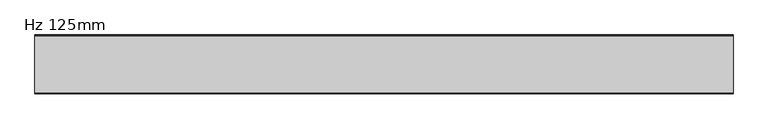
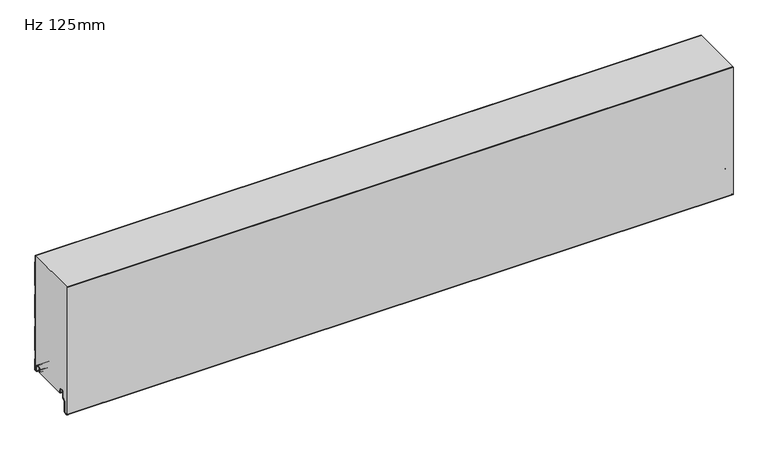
"""IFC4 building model written with IfcOpenShell, lengths in millimetres: plate geometry, KIP-MEX-KSS-1067-R19-CP-Hz-OP_SL : Hz 125mm."""

from ifc_helpers import new_model, si_unit, point, frame, frame_2d, origin, place, context, project, spatial, polyline, circle_curve, trimmed, segment, composite_curve, outline, extrude, source, transform, mapped, element, save
from ifc_brep_helpers import plane_surface, cylinder_surface, revolved_surface, advanced_brep


def hz_125mm_eea721eb(model_context):
    return source(origin(), model_context, "Body", "SolidModel", [
        advanced_brep(
        [(-740.0, -17.0015159, 2.0313088), (-740.0, -18.0015191, 1.0313116), (-740.0, -19.0015105, 2.0313088), (-740.0, -19.0015105, 6.0315125), (-740.0, -18.0015159, 6.0315125), (-740.0, -18.0015159, 8.7237223), (-740.0, -14.7015202, 12.023718), (-740.0, -10.301529, 12.023718), (-740.0, -7.0015335, 8.7237225), (-740.0, -7.0015335, -1.6962564), (-740.0, -5.2315393, -3.4662506), (-740.0, -0.9999916, -3.4662506), (-740.0, -0.9999916, 21.034026), (-740.0, -2.2002307, 22.4196686), (-740.0, -2.2002307, 41.7948349), (-740.0, -1.0, 43.1804679), (-740.0, -1.0, 97.2338833), (-740.0, -2.2002307, 98.6195162), (-740.0, -2.2002307, 117.9946825), (-740.0, -1.0, 119.3803155), (-740.0, -1.0, 173.4337309), (-740.0, -2.2002307, 174.8193638), (-740.0, -2.2002307, 194.1945301), (-740.0, -1.0, 195.5801631), (-740.0, -1.0, 249.6335785), (-740.0, -2.2002307, 251.0192114), (-740.0, -2.2002307, 266.0), (-740.0, -1.2002307, 266.0), (-740.0, -1.2002307, 251.3920919), (-740.0, -0.3417885, 250.4010442), (-740.0, 0.0, 249.4844273), (-740.0, 0.0, 195.7293142), (-740.0, -0.3417885, 194.8126973), (-740.0, -1.2002307, 193.8216497), (-740.0, -1.2002307, 175.1922443), (-740.0, -0.3417885, 174.2011966), (-740.0, 0.0, 173.2845797), (-740.0, 0.0, 119.5294666), (-740.0, -0.3417885, 118.6128497), (-740.0, -1.2002307, 117.6218021), (-740.0, -1.2002307, 98.9923967), (-740.0, -0.3417885, 98.001349), (-740.0, 0.0, 97.0847321), (-740.0, 0.0, 43.329619), (-740.0, -0.3417885, 42.4130021), (-740.0, -1.2002307, 41.4219545), (-740.0, -1.2002307, 22.7925491), (-740.0, -0.3417885, 21.8015014), (-740.0, 0.0, 20.8847931), (-740.0, 8.4e-06, -3.0662545), (-740.0, -1.3999878, -4.4662506), (-740.0, -5.2315393, -4.4662506), (-740.0, -8.0015335, -1.6962564), (-740.0, -8.0015335, 8.7237225), (-740.0, -10.301529, 11.023718), (-740.0, -14.7015202, 11.023718), (-740.0, -17.0015159, 8.7237223), (740.0, -17.0015159, 2.0313088), (740.0, -17.0015159, 8.7237223), (740.0, -14.7015202, 11.023718), (740.0, -10.301529, 11.023718), (740.0, -8.0015335, 8.7237225), (740.0, -8.0015335, -1.6962564), (740.0, -5.2315393, -4.4662506), (740.0, -1.3999878, -4.4662506), (740.0, 8.4e-06, -3.0662545), (740.0, 8.4e-06, 20.8848845), (740.0, -0.3417885, 21.8015014), (740.0, -1.2002307, 22.7925491), (740.0, -1.2002307, 41.4219545), (740.0, -0.3417885, 42.4130021), (740.0, 0.0, 43.329619), (740.0, 0.0, 97.0847321), (740.0, -0.3417885, 98.001349), (740.0, -1.2002307, 98.9923967), (740.0, -1.2002307, 117.6218021), (740.0, -0.3417885, 118.6128497), (740.0, 0.0, 119.5294666), (740.0, 0.0, 173.2845797), (740.0, -0.3417885, 174.2011966), (740.0, -1.2002307, 175.1922443), (740.0, -1.2002307, 193.8216497), (740.0, -0.3417885, 194.8126973), (740.0, 0.0, 195.7293142), (740.0, 0.0, 249.4844273), (740.0, -0.3417885, 250.4010442), (740.0, -1.2002307, 251.3920919), (740.0, -1.2002307, 266.0), (740.0, -2.2002307, 266.0), (740.0, -2.2002307, 251.0192114), (740.0, -1.0, 249.6335785), (740.0, -1.0, 195.5801631), (740.0, -2.2002307, 194.1945301), (740.0, -2.2002307, 174.8193638), (740.0, -1.0, 173.4337309), (740.0, -1.0, 119.3803155), (740.0, -2.2002307, 117.9946825), (740.0, -2.2002307, 98.6195162), (740.0, -1.0, 97.2338833), (740.0, -1.0, 43.1804679), (740.0, -2.2002307, 41.7948349), (740.0, -2.2002307, 22.4196686), (740.0, -0.9999916, 21.034026), (740.0, -0.9999916, -3.4662506), (740.0, -5.2315393, -3.4662506), (740.0, -7.0015335, -1.6962564), (740.0, -7.0015335, 8.7237225), (740.0, -10.301529, 12.023718), (740.0, -14.7015202, 12.023718), (740.0, -18.0015159, 8.7237223), (740.0, -18.0015159, 6.0315125), (740.0, -19.0015105, 6.0315125), (740.0, -19.0015105, 2.0313088), (740.0, -18.0015192, 1.0313116)],
        [
            (0, 1, circle_curve(frame((-740.0, -18.0015132, 2.0313088), z_axis=(-1.0, 0.0, 0.0), x_axis=(0.0, 0.0, 1.0)), 0.9999973)),
            (1, 2, circle_curve(frame((-740.0, -18.0015133, 2.0313088), z_axis=(-1.0, 0.0, 0.0), x_axis=(0.0, 0.0, 1.0)), 0.9999972)),
            (2, 3),
            (3, 4),
            (4, 5),
            (5, 6, circle_curve(frame((-740.0, -14.7015202, 8.7237223), z_axis=(-1.0, 0.0, 0.0), x_axis=(0.0, 0.0, 1.0)), 3.2999957)),
            (6, 7),
            (7, 8, circle_curve(frame((-740.0, -10.301529, 8.7237225), z_axis=(-1.0, 0.0, 0.0), x_axis=(0.0, 0.0, 1.0)), 3.2999955)),
            (8, 9),
            (9, 10, circle_curve(frame((-740.0, -5.2315393, -1.6962564), z_axis=(1.0, 0.0, 0.0), x_axis=(0.0, 0.0, 1.0)), 1.7699942)),
            (10, 11),
            (11, 12),
            (12, 13),
            (13, 14),
            (14, 15),
            (15, 16),
            (16, 17),
            (17, 18),
            (18, 19),
            (19, 20),
            (20, 21),
            (21, 22),
            (22, 23),
            (23, 24),
            (24, 25),
            (25, 26),
            (26, 27),
            (27, 28),
            (28, 29),
            (29, 30, circle_curve(frame((-740.0, -1.3999972, 249.4844273), z_axis=(-1.0, 0.0, 0.0), x_axis=(0.0, 0.0, 1.0)), 1.3999972)),
            (30, 31),
            (31, 32, circle_curve(frame((-740.0, -1.3999972, 195.7293142), z_axis=(-1.0, 0.0, 0.0), x_axis=(0.0, 0.0, 1.0)), 1.3999972)),
            (32, 33),
            (33, 34),
            (34, 35),
            (35, 36, circle_curve(frame((-740.0, -1.3999972, 173.2845797), z_axis=(-1.0, 0.0, 0.0), x_axis=(0.0, 0.0, 1.0)), 1.3999972)),
            (36, 37),
            (37, 38, circle_curve(frame((-740.0, -1.3999972, 119.5294666), z_axis=(-1.0, 0.0, 0.0), x_axis=(0.0, 0.0, 1.0)), 1.3999972)),
            (38, 39),
            (39, 40),
            (40, 41),
            (41, 42, circle_curve(frame((-740.0, -1.3999972, 97.0847321), z_axis=(-1.0, 0.0, 0.0), x_axis=(0.0, 0.0, 1.0)), 1.3999972)),
            (42, 43),
            (43, 44, circle_curve(frame((-740.0, -1.3999972, 43.329619), z_axis=(-1.0, 0.0, 0.0), x_axis=(0.0, 0.0, 1.0)), 1.3999972)),
            (44, 45),
            (45, 46),
            (46, 47),
            (47, 48, circle_curve(frame((-740.0, -1.3999972, 20.8848845), z_axis=(-1.0, 0.0, 0.0), x_axis=(0.0, 0.0, 1.0)), 1.3999972)),
            (48, 49),
            (49, 50, circle_curve(frame((-740.0, -1.3999878, -3.0662545), z_axis=(-1.0, 0.0, 0.0), x_axis=(0.0, 0.0, 1.0)), 1.3999962)),
            (50, 51),
            (51, 52, circle_curve(frame((-740.0, -5.2315393, -1.6962564), z_axis=(-1.0, 0.0, 0.0), x_axis=(0.0, 0.0, 1.0)), 2.7699942)),
            (52, 53),
            (53, 54, circle_curve(frame((-740.0, -10.301529, 8.7237225), z_axis=(1.0, 0.0, 0.0), x_axis=(0.0, 0.0, 1.0)), 2.2999955)),
            (54, 55),
            (55, 56, circle_curve(frame((-740.0, -14.7015202, 8.7237223), z_axis=(1.0, 0.0, 0.0), x_axis=(0.0, 0.0, 1.0)), 2.2999957)),
            (56, 0),
            (57, 58),
            (58, 59, circle_curve(frame((740.0, -14.7015202, 8.7237223), z_axis=(-1.0, 0.0, 0.0), x_axis=(0.0, 0.0, 1.0)), 2.2999957)),
            (59, 60),
            (60, 61, circle_curve(frame((740.0, -10.301529, 8.7237225), z_axis=(-1.0, 0.0, 0.0), x_axis=(0.0, 0.0, 1.0)), 2.2999955)),
            (61, 62),
            (62, 63, circle_curve(frame((740.0, -5.2315393, -1.6962564), z_axis=(1.0, 0.0, 0.0), x_axis=(0.0, 0.0, 1.0)), 2.7699942)),
            (63, 64),
            (64, 65, circle_curve(frame((740.0, -1.3999878, -3.0662545), z_axis=(1.0, 0.0, 0.0), x_axis=(0.0, 0.0, 1.0)), 1.3999962)),
            (65, 66),
            (66, 67, circle_curve(frame((740.0, -1.3999972, 20.8848845), z_axis=(1.0, 0.0, 0.0), x_axis=(0.0, 0.0, 1.0)), 1.3999972)),
            (67, 68),
            (68, 69),
            (69, 70),
            (70, 71, circle_curve(frame((740.0, -1.3999972, 43.329619), z_axis=(1.0, 0.0, 0.0), x_axis=(0.0, 0.0, 1.0)), 1.3999972)),
            (71, 72),
            (72, 73, circle_curve(frame((740.0, -1.3999972, 97.0847321), z_axis=(1.0, 0.0, 0.0), x_axis=(0.0, 0.0, 1.0)), 1.3999972)),
            (73, 74),
            (74, 75),
            (75, 76),
            (76, 77, circle_curve(frame((740.0, -1.3999972, 119.5294666), z_axis=(1.0, 0.0, 0.0), x_axis=(0.0, 0.0, 1.0)), 1.3999972)),
            (77, 78),
            (78, 79, circle_curve(frame((740.0, -1.3999972, 173.2845797), z_axis=(1.0, 0.0, 0.0), x_axis=(0.0, 0.0, 1.0)), 1.3999972)),
            (79, 80),
            (80, 81),
            (81, 82),
            (82, 83, circle_curve(frame((740.0, -1.3999972, 195.7293142), z_axis=(1.0, 0.0, 0.0), x_axis=(0.0, 0.0, 1.0)), 1.3999972)),
            (83, 84),
            (84, 85, circle_curve(frame((740.0, -1.3999972, 249.4844273), z_axis=(1.0, 0.0, 0.0), x_axis=(0.0, 0.0, 1.0)), 1.3999972)),
            (85, 86),
            (86, 87),
            (87, 88),
            (88, 89),
            (89, 90),
            (90, 91),
            (91, 92),
            (92, 93),
            (93, 94),
            (94, 95),
            (95, 96),
            (96, 97),
            (97, 98),
            (98, 99),
            (99, 100),
            (100, 101),
            (101, 102),
            (102, 103),
            (103, 104),
            (104, 105, circle_curve(frame((740.0, -5.2315393, -1.6962564), z_axis=(-1.0, 0.0, 0.0), x_axis=(0.0, 0.0, 1.0)), 1.7699942)),
            (105, 106),
            (106, 107, circle_curve(frame((740.0, -10.301529, 8.7237225), z_axis=(1.0, 0.0, 0.0), x_axis=(0.0, 0.0, 1.0)), 3.2999955)),
            (107, 108),
            (108, 109, circle_curve(frame((740.0, -14.7015202, 8.7237223), z_axis=(1.0, 0.0, 0.0), x_axis=(0.0, 0.0, 1.0)), 3.2999957)),
            (109, 110),
            (110, 111),
            (111, 112),
            (112, 113, circle_curve(frame((740.0, -18.0015133, 2.0313088), z_axis=(1.0, 0.0, 0.0), x_axis=(0.0, 0.0, 1.0)), 0.9999972)),
            (113, 57, circle_curve(frame((740.0, -18.0015132, 2.0313088), z_axis=(1.0, 0.0, 0.0), x_axis=(0.0, 0.0, 1.0)), 0.9999973)),
            (56, 58),
            (57, 0),
            (55, 59),
            (54, 60),
            (53, 61),
            (52, 62),
            (51, 63),
            (50, 64),
            (49, 65),
            (48, 66),
            (47, 67),
            (46, 68),
            (45, 69),
            (44, 70),
            (43, 71),
            (42, 72),
            (41, 73),
            (40, 74),
            (39, 75),
            (38, 76),
            (37, 77),
            (36, 78),
            (35, 79),
            (34, 80),
            (33, 81),
            (32, 82),
            (31, 83),
            (30, 84),
            (29, 85),
            (28, 86),
            (27, 87),
            (88, 26),
            (25, 89),
            (24, 90),
            (23, 91),
            (22, 92),
            (21, 93),
            (20, 94),
            (19, 95),
            (18, 96),
            (17, 97),
            (16, 98),
            (15, 99),
            (14, 100),
            (13, 101),
            (12, 102),
            (11, 103),
            (10, 104),
            (9, 105),
            (8, 106),
            (7, 107),
            (6, 108),
            (5, 109),
            (4, 110),
            (3, 111),
            (2, 112),
            (1, 113),
        ],
        [
            plane_surface(frame((-740.0, 0.0, 533.4), z_axis=(-1.0, 0.0, 0.0), x_axis=(0.0, 1.0, 0.0))),
            plane_surface(frame((740.0, 0.0, 533.4), z_axis=(1.0, 0.0, 0.0), x_axis=(0.0, 1.0, 0.0))),
            plane_surface(frame((-740.0, -17.0015159, 2.0313088), z_axis=(0.0, 1.0, 0.0), x_axis=(1.0, 0.0, 0.0))),
            revolved_surface(polyline([(740.0, -14.7015202, 11.023718), (-740.0, -14.7015202, 11.023718)]), (-740.0, -14.7015202, 8.7237223), (1.0, 0.0, 0.0)),
            plane_surface(frame((-740.0, -14.7015202, 11.023718), z_axis=(0.0, 0.0, -1.0), x_axis=(1.0, 0.0, 0.0))),
            revolved_surface(polyline([(740.0, -10.301529, 11.023717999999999), (-740.0, -10.301529, 11.023717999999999)]), (-740.0, -10.301529, 8.7237225), (1.0, 0.0, 0.0)),
            plane_surface(frame((-740.0, -8.0015335, 8.7237225), z_axis=(0.0, -1.0, 0.0), x_axis=(1.0, 0.0, 0.0))),
            cylinder_surface(frame((-740.0, -5.2315393, -1.6962564), z_axis=(-1.0, 0.0, 0.0), x_axis=(0.0, 0.0, 1.0)), 2.7699942),
            plane_surface(frame((-740.0, -5.2315393, -4.4662506), z_axis=(0.0, 0.0, -1.0), x_axis=(1.0, 0.0, 0.0))),
            cylinder_surface(frame((-740.0, -1.3999878, -3.0662545), z_axis=(-1.0, 0.0, 0.0), x_axis=(0.0, 0.0, 1.0)), 1.3999962),
            plane_surface(frame((-740.0, 8.4e-06, -3.0662545), z_axis=(0.0, 1.0, 0.0), x_axis=(1.0, 0.0, 0.0))),
            cylinder_surface(frame((-740.0, -1.3999972, 20.8848845), z_axis=(-1.0, 0.0, 0.0), x_axis=(0.0, 0.0, 1.0)), 1.3999972),
            plane_surface(frame((-740.0, -0.3417885, 21.8015014), z_axis=(0.0, 0.755864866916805, 0.6547276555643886), x_axis=(1.0, 0.0, 0.0))),
            plane_surface(frame((-740.0, -1.2002307, 32.1072518), z_axis=(0.0, 1.0, 0.0), x_axis=(1.0, 0.0, 0.0))),
            plane_surface(frame((-740.0, -1.2002307, 41.4219545), z_axis=(0.0, 0.755864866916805, -0.6547276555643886), x_axis=(1.0, 0.0, 0.0))),
            cylinder_surface(frame((-740.0, -1.3999972, 43.329619), z_axis=(-1.0, 0.0, 0.0), x_axis=(0.0, 0.0, 1.0)), 1.3999972),
            plane_surface(frame((-740.0, 0.0, 43.329619), z_axis=(0.0, 1.0, 0.0), x_axis=(1.0, 0.0, 0.0))),
            cylinder_surface(frame((-740.0, -1.3999972, 97.0847321), z_axis=(-1.0, 0.0, 0.0), x_axis=(0.0, 0.0, 1.0)), 1.3999972),
            plane_surface(frame((-740.0, -0.3417885, 98.001349), z_axis=(0.0, 0.755864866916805, 0.6547276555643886), x_axis=(1.0, 0.0, 0.0))),
            plane_surface(frame((-740.0, -1.2002307, 108.3070994), z_axis=(0.0, 1.0, 0.0), x_axis=(1.0, 0.0, 0.0))),
            plane_surface(frame((-740.0, -1.2002307, 117.6218021), z_axis=(0.0, 0.755864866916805, -0.6547276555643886), x_axis=(1.0, 0.0, 0.0))),
            cylinder_surface(frame((-740.0, -1.3999972, 119.5294666), z_axis=(-1.0, 0.0, 0.0), x_axis=(0.0, 0.0, 1.0)), 1.3999972),
            plane_surface(frame((-740.0, 0.0, 119.5294666), z_axis=(0.0, 1.0, 0.0), x_axis=(1.0, 0.0, 0.0))),
            cylinder_surface(frame((-740.0, -1.3999972, 173.2845797), z_axis=(-1.0, 0.0, 0.0), x_axis=(0.0, 0.0, 1.0)), 1.3999972),
            plane_surface(frame((-740.0, -0.3417885, 174.2011966), z_axis=(0.0, 0.755864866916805, 0.6547276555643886), x_axis=(1.0, 0.0, 0.0))),
            plane_surface(frame((-740.0, -1.2002307, 184.506947), z_axis=(0.0, 1.0, 0.0), x_axis=(1.0, 0.0, 0.0))),
            plane_surface(frame((-740.0, -1.2002307, 193.8216497), z_axis=(0.0, 0.755864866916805, -0.6547276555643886), x_axis=(1.0, 0.0, 0.0))),
            cylinder_surface(frame((-740.0, -1.3999972, 195.7293142), z_axis=(-1.0, 0.0, 0.0), x_axis=(0.0, 0.0, 1.0)), 1.3999972),
            plane_surface(frame((-740.0, 0.0, 195.7293142), z_axis=(0.0, 1.0, 0.0), x_axis=(1.0, 0.0, 0.0))),
            cylinder_surface(frame((-740.0, -1.3999972, 249.4844273), z_axis=(-1.0, 0.0, 0.0), x_axis=(0.0, 0.0, 1.0)), 1.3999972),
            plane_surface(frame((-740.0, -0.3417885, 250.4010442), z_axis=(0.0, 0.755864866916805, 0.6547276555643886), x_axis=(1.0, 0.0, 0.0))),
            plane_surface(frame((-740.0, -1.2002307, 260.7067946), z_axis=(0.0, 1.0, 0.0), x_axis=(1.0, 0.0, 0.0))),
            plane_surface(frame((-740.0, -2.2002307, 270.3943777), z_axis=(0.0, -1.0, 0.0), x_axis=(1.0, 0.0, 0.0))),
            plane_surface(frame((-740.0, -2.2002307, 251.0192114), z_axis=(0.0, -0.755864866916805, -0.6547276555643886), x_axis=(1.0, 0.0, 0.0))),
            plane_surface(frame((-740.0, -1.0, 249.6335785), z_axis=(0.0, -1.0, 0.0), x_axis=(1.0, 0.0, 0.0))),
            plane_surface(frame((-740.0, -1.0, 195.5801631), z_axis=(0.0, -0.755864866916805, 0.6547276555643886), x_axis=(1.0, 0.0, 0.0))),
            plane_surface(frame((-740.0, -2.2002307, 194.1945301), z_axis=(0.0, -1.0, 0.0), x_axis=(1.0, 0.0, 0.0))),
            plane_surface(frame((-740.0, -2.2002307, 174.8193638), z_axis=(0.0, -0.755864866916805, -0.6547276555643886), x_axis=(1.0, 0.0, 0.0))),
            plane_surface(frame((-740.0, -1.0, 173.4337309), z_axis=(0.0, -1.0, 0.0), x_axis=(1.0, 0.0, 0.0))),
            plane_surface(frame((-740.0, -1.0, 119.3803155), z_axis=(0.0, -0.755864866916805, 0.6547276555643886), x_axis=(1.0, 0.0, 0.0))),
            plane_surface(frame((-740.0, -2.2002307, 117.9946825), z_axis=(0.0, -1.0, 0.0), x_axis=(1.0, 0.0, 0.0))),
            plane_surface(frame((-740.0, -2.2002307, 98.6195162), z_axis=(0.0, -0.755864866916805, -0.6547276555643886), x_axis=(1.0, 0.0, 0.0))),
            plane_surface(frame((-740.0, -1.0, 97.2338833), z_axis=(0.0, -1.0, 0.0), x_axis=(1.0, 0.0, 0.0))),
            plane_surface(frame((-740.0, -1.0, 43.1804679), z_axis=(0.0, -0.755864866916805, 0.6547276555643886), x_axis=(1.0, 0.0, 0.0))),
            plane_surface(frame((-740.0, -2.2002307, 41.7948349), z_axis=(0.0, -1.0, 0.0), x_axis=(1.0, 0.0, 0.0))),
            plane_surface(frame((-740.0, -2.2002307, 22.4196686), z_axis=(0.0, -0.755864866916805, -0.6547276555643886), x_axis=(1.0, 0.0, 0.0))),
            plane_surface(frame((-740.0, -0.9999916, 21.034026), z_axis=(0.0, -1.0, 0.0), x_axis=(1.0, 0.0, 0.0))),
            plane_surface(frame((-740.0, -0.9999916, -3.4662506), z_axis=(0.0, 0.0, 1.0), x_axis=(1.0, 0.0, 0.0))),
            revolved_surface(polyline([(740.0, -5.2315393, 0.07373779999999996), (-740.0, -5.2315393, 0.07373779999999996)]), (-740.0, -5.2315393, -1.6962564), (1.0, 0.0, 0.0)),
            plane_surface(frame((-740.0, -7.0015335, -1.6962564), z_axis=(0.0, 1.0, 0.0), x_axis=(1.0, 0.0, 0.0))),
            cylinder_surface(frame((-740.0, -10.301529, 8.7237225), z_axis=(-1.0, 0.0, 0.0), x_axis=(0.0, 0.0, 1.0)), 3.2999955),
            plane_surface(frame((-740.0, -10.301529, 12.023718), z_axis=(0.0, 0.0, 1.0), x_axis=(1.0, 0.0, 0.0))),
            cylinder_surface(frame((-740.0, -14.7015202, 8.7237223), z_axis=(-1.0, 0.0, 0.0), x_axis=(0.0, 0.0, 1.0)), 3.2999957),
            plane_surface(frame((-740.0, -18.0015159, 8.7237223), z_axis=(0.0, -1.0, 0.0), x_axis=(1.0, 0.0, 0.0))),
            plane_surface(frame((-740.0, -18.0015159, 6.0315125), z_axis=(0.0, 0.0, 1.0), x_axis=(1.0, 0.0, 0.0))),
            plane_surface(frame((-740.0, -19.0015105, 6.0315125), z_axis=(0.0, -1.0, 0.0), x_axis=(1.0, 0.0, 0.0))),
            cylinder_surface(frame((-740.0, -18.0015133, 2.0313088), z_axis=(-1.0, 0.0, 0.0), x_axis=(0.0, 0.0, 1.0)), 0.9999972),
            cylinder_surface(frame((-740.0, -18.0015132, 2.0313088), z_axis=(-1.0, 0.0, 0.0), x_axis=(0.0, 0.0, 1.0)), 0.9999973),
            plane_surface(frame((740.0, 10.0, 266.0), z_axis=(0.0, 0.0, 1.0), x_axis=(-1.0, 0.0, 0.0))),
        ],
        [
            (0, [[1, 2, 3, 4, 5, 6, 7, 8, 9, 10, 11, 12, 13, 14, 15, 16, 17, 18, 19, 20, 21, 22, 23, 24, 25, 26, 27, 28, 29, 30, 31, 32, 33, 34, 35, 36, 37, 38, 39, 40, 41, 42, 43, 44, 45, 46, 47, 48, 49, 50, 51, 52, 53, 54, 55, 56, 57]]),
            (1, [[58, 59, 60, 61, 62, 63, 64, 65, 66, 67, 68, 69, 70, 71, 72, 73, 74, 75, 76, 77, 78, 79, 80, 81, 82, 83, 84, 85, 86, 87, 88, 89, 90, 91, 92, 93, 94, 95, 96, 97, 98, 99, 100, 101, 102, 103, 104, 105, 106, 107, 108, 109, 110, 111, 112, 113, 114]]),
            (2, [[115, -58, 116, -57]]),
            (3, [[117, -59, -115, -56]]),
            (4, [[118, -60, -117, -55]]),
            (5, [[119, -61, -118, -54]]),
            (6, [[120, -62, -119, -53]]),
            (7, [[121, -63, -120, -52]]),
            (8, [[122, -64, -121, -51]]),
            (9, [[123, -65, -122, -50]]),
            (10, [[124, -66, -123, -49]]),
            (11, [[125, -67, -124, -48]]),
            (12, [[126, -68, -125, -47]]),
            (13, [[127, -69, -126, -46]]),
            (14, [[128, -70, -127, -45]]),
            (15, [[129, -71, -128, -44]]),
            (16, [[130, -72, -129, -43]]),
            (17, [[131, -73, -130, -42]]),
            (18, [[132, -74, -131, -41]]),
            (19, [[133, -75, -132, -40]]),
            (20, [[134, -76, -133, -39]]),
            (21, [[135, -77, -134, -38]]),
            (22, [[136, -78, -135, -37]]),
            (23, [[137, -79, -136, -36]]),
            (24, [[138, -80, -137, -35]]),
            (25, [[139, -81, -138, -34]]),
            (26, [[140, -82, -139, -33]]),
            (27, [[141, -83, -140, -32]]),
            (28, [[142, -84, -141, -31]]),
            (29, [[143, -85, -142, -30]]),
            (30, [[144, -86, -143, -29]]),
            (31, [[-28, 145, -87, -144]]),
            (32, [[-89, 146, -26, 147]]),
            (33, [[148, -90, -147, -25]]),
            (34, [[149, -91, -148, -24]]),
            (35, [[150, -92, -149, -23]]),
            (36, [[151, -93, -150, -22]]),
            (37, [[152, -94, -151, -21]]),
            (38, [[153, -95, -152, -20]]),
            (39, [[154, -96, -153, -19]]),
            (40, [[155, -97, -154, -18]]),
            (41, [[156, -98, -155, -17]]),
            (42, [[157, -99, -156, -16]]),
            (43, [[158, -100, -157, -15]]),
            (44, [[159, -101, -158, -14]]),
            (45, [[160, -102, -159, -13]]),
            (46, [[161, -103, -160, -12]]),
            (47, [[162, -104, -161, -11]]),
            (48, [[163, -105, -162, -10]]),
            (49, [[164, -106, -163, -9]]),
            (50, [[165, -107, -164, -8]]),
            (51, [[166, -108, -165, -7]]),
            (52, [[167, -109, -166, -6]]),
            (53, [[168, -110, -167, -5]]),
            (54, [[169, -111, -168, -4]]),
            (55, [[170, -112, -169, -3]]),
            (56, [[171, -113, -170, -2]]),
            (57, [[-116, -114, -171, -1]]),
            (58, [[-146, -88, -145, -27]]),
        ],
    ),
        extrude(outline(composite_curve([segment(trimmed(circle_curve(frame_2d((-121.4297607, -32.4521176)), 3.5702393), [point((-121.1184903, -36.008762))], [point((-125.0, -32.4521176))], False, "CARTESIAN"), True, "CONTINUOUS"), segment(polyline([(-125.0, -32.4521176), (-125.0, 266.0), (-123.9993606, 266.0), (-123.9993606, -32.509446)]), True, "CONTINUOUS"), segment(trimmed(circle_curve(frame_2d((-121.4297607, -32.4521176)), 2.5702393), [point((-123.9993606, -32.509446))], [point((-121.2056751, -35.0125699))], True, "CARTESIAN"), True, "CONTINUOUS"), segment(polyline([(-121.2056751, -35.0125699), (-116.2238542, -34.5765709)]), True, "CONTINUOUS"), segment(trimmed(circle_curve(frame_2d((-116.7052448, -31.9198392)), 2.6999926), [point((-116.2238542, -34.5765709))], [point((-114.0052522, -31.9198392))], True, "CARTESIAN"), True, "CONTINUOUS"), segment(polyline([(-114.0052522, -31.9198392), (-114.0052522, -9.8247096), (-108.5031811, -4.3226385)]), True, "CONTINUOUS"), segment(trimmed(circle_curve(frame_2d((-109.7052588, -3.1205608)), 1.6999946), [point((-108.5031811, -4.3226385))], [point((-108.0052642, -3.1205608))], True, "CARTESIAN"), True, "CONTINUOUS"), segment(polyline([(-108.0052642, -3.1205608), (-108.0052642, 8.6903283)]), True, "CONTINUOUS"), segment(trimmed(circle_curve(frame_2d((-104.6552689, 8.6903283)), 3.3499953), [point((-108.0052642, 8.6903283))], [point((-104.6552689, 12.0403236))], False, "CARTESIAN"), True, "CONTINUOUS"), segment(polyline([(-104.6552689, 12.0403236), (-100.2552777, 12.0403236)]), True, "CONTINUOUS"), segment(trimmed(circle_curve(frame_2d((-100.2552777, 8.6903283)), 3.3499953), [point((-100.2552777, 12.0403236))], [point((-96.9052824, 8.6903283))], False, "CARTESIAN"), True, "CONTINUOUS"), segment(polyline([(-96.9052824, 8.6903283), (-96.9052824, 5.9912173), (-95.5068035, 5.9912173), (-95.5068035, 2.2328239)]), True, "CONTINUOUS"), segment(trimmed(circle_curve(frame_2d((-96.7068002, 2.2313092)), 1.1999976), [point((-95.5068035, 2.2328239))], [point((-96.6762782, 1.0316999))], False, "CARTESIAN"), True, "CONTINUOUS"), segment(trimmed(circle_curve(frame_2d((-96.7068002, 2.2313092)), 1.1999976), [point((-96.6762782, 1.0316999))], [point((-97.9052824, 2.1710221))], False, "CARTESIAN"), True, "CONTINUOUS"), segment(polyline([(-97.9052824, 2.1710221), (-97.9052824, 8.6903283)]), True, "CONTINUOUS"), segment(trimmed(circle_curve(frame_2d((-100.2552777, 8.6903283)), 2.3499953), [point((-97.9052824, 8.6903283))], [point((-100.2552777, 11.0403236))], True, "CARTESIAN"), True, "CONTINUOUS"), segment(polyline([(-100.2552777, 11.0403236), (-104.6552689, 11.0403236)]), True, "CONTINUOUS"), segment(trimmed(circle_curve(frame_2d((-104.6552689, 8.6903283)), 2.3499953), [point((-104.6552689, 11.0403236))], [point((-107.0052642, 8.6903283))], True, "CARTESIAN"), True, "CONTINUOUS"), segment(polyline([(-107.0052642, 8.6903283), (-107.0052642, -3.1205608)]), True, "CONTINUOUS"), segment(trimmed(circle_curve(frame_2d((-109.7052588, -3.1205608)), 2.6999946), [point((-107.0052642, -3.1205608))], [point((-107.7960743, -5.0297453))], False, "CARTESIAN"), True, "CONTINUOUS"), segment(polyline([(-107.7960743, -5.0297453), (-112.6244918, -9.8581627)]), True, "CONTINUOUS"), segment(trimmed(circle_curve(frame_2d((-111.7052548, -10.7773997)), 1.2999974), [point((-112.6244918, -9.8581627))], [point((-113.0052522, -10.7773997))], True, "CARTESIAN"), True, "CONTINUOUS"), segment(polyline([(-113.0052522, -10.7773997), (-113.0052522, -31.9198392)]), True, "CONTINUOUS"), segment(trimmed(circle_curve(frame_2d((-116.7052448, -31.9198392)), 3.6999926), [point((-113.0052522, -31.9198392))], [point((-116.0944437, -35.5690675))], False, "CARTESIAN"), True, "CONTINUOUS"), segment(polyline([(-116.0944437, -35.5690675), (-121.1184903, -36.008762)]), True, "CONTINUOUS")], self_intersect=False)), frame((-740.0, 0.0, 0.0), z_axis=(1.0, 0.0, 0.0), x_axis=(0.0, 1.0, 0.0)), (0.0, 0.0, 1.0), 1480.0),
        advanced_brep(
        [(-740.0, -96.670875, 1.0316999), (-740.0, -95.5014003, 2.2328239), (-740.0, -95.5014003, 5.9912173), (-740.0, -96.8998791, 5.9912173), (-740.0, -96.8998791, 8.6903283), (-740.0, -100.2498744, 12.0403236), (-740.0, -104.6498656, 12.0403236), (-740.0, -107.9998609, 8.6903283), (-740.0, -107.9998609, -3.1205608), (-740.0, -108.4977778, -4.3226385), (-740.0, -113.9998489, -9.8247096), (-740.0, -113.9998489, -31.9198392), (-740.0, -116.2184509, -34.5765709), (-740.0, -121.2002718, -35.0125699), (-740.0, -123.9945967, -32.4521176), (-740.0, -124.0, 266.0), (-740.0, -2.2002307, 266.0), (-740.0, -2.2002307, 251.0192115), (-740.0, -1.0, 249.6335785), (-740.0, -1.0, 195.5801631), (-740.0, -2.2002307, 194.1945302), (-740.0, -2.2002307, 174.8193639), (-740.0, -1.0, 173.4337309), (-740.0, -1.0, 119.3803155), (-740.0, -2.2002307, 117.9946826), (-740.0, -2.2002307, 98.6195163), (-740.0, -1.0, 97.2338833), (-740.0, -1.0, 43.1804679), (-740.0, -2.2002307, 41.794835), (-740.0, -2.2002307, 22.4196687), (-740.0, -0.9999916, 21.034026), (-740.0, -0.9999916, -3.4662506), (-740.0, -5.2315389, -3.4662506), (-740.0, -7.0015331, -1.6962564), (-740.0, -7.0015331, 8.7237222), (-740.0, -10.301529, 12.023718), (-740.0, -14.7015202, 12.023718), (-740.0, -18.0015159, 8.7237223), (-740.0, -18.0015159, 6.0315125), (-740.0, -19.0015105, 6.0315125), (-740.0, -19.0015105, 2.0313089), (-740.0, -18.0015192, 1.0313117), (-740.0, -19.0328308, 0.0), (-740.0, -95.6391751, 0.0), (740.0, -96.670875, 1.0316999), (740.0, -95.6391751, 0.0), (740.0, -19.0328308, 0.0), (740.0, -18.0015192, 1.0313117), (740.0, -19.0015105, 2.0313089), (740.0, -19.0015105, 6.0315125), (740.0, -18.0015159, 6.0315125), (740.0, -18.0015159, 8.7237223), (740.0, -14.7015202, 12.023718), (740.0, -10.301529, 12.023718), (740.0, -7.0015331, 8.7237222), (740.0, -7.0015331, -1.6962564), (740.0, -5.2315389, -3.4662506), (740.0, -0.9999916, -3.4662506), (740.0, -0.9999916, 21.034026), (740.0, -2.2002307, 22.4196687), (740.0, -2.2002307, 41.794835), (740.0, -1.0, 43.1804679), (740.0, -1.0, 97.2338833), (740.0, -2.2002307, 98.6195163), (740.0, -2.2002307, 117.9946826), (740.0, -1.0, 119.3803155), (740.0, -1.0, 173.4337309), (740.0, -2.2002307, 174.8193639), (740.0, -2.2002307, 194.1945302), (740.0, -1.0, 195.5801631), (740.0, -1.0, 249.6335785), (740.0, -2.2002307, 251.0192115), (740.0, -2.2002307, 266.0), (740.0, -124.0, 266.0), (740.0, -124.0, -32.4521176), (740.0, -121.2002718, -35.0125699), (740.0, -116.2184509, -34.5765709), (740.0, -113.9998489, -31.9198392), (740.0, -113.9998489, -9.8247096), (740.0, -108.4977778, -4.3226385), (740.0, -107.9998609, -3.1205608), (740.0, -107.9998609, 8.6903283), (740.0, -104.6498656, 12.0403236), (740.0, -100.2498744, 12.0403236), (740.0, -96.8998791, 8.6903283), (740.0, -96.8998791, 5.9912173), (740.0, -95.5014003, 5.9912173), (740.0, -95.5014003, 2.2328239)],
        [
            (0, 1, circle_curve(frame((-740.0, -96.7013969, 2.2313092), z_axis=(1.0, 0.0, 0.0), x_axis=(0.0, 0.0, -1.0)), 1.1999976)),
            (1, 2),
            (2, 3),
            (3, 4),
            (4, 5, circle_curve(frame((-740.0, -100.2498744, 8.6903283), z_axis=(1.0, 0.0, 0.0), x_axis=(0.0, 0.0, -1.0)), 3.3499953)),
            (5, 6),
            (6, 7, circle_curve(frame((-740.0, -104.6498656, 8.6903283), z_axis=(1.0, 0.0, 0.0), x_axis=(0.0, 0.0, -1.0)), 3.3499953)),
            (7, 8),
            (8, 9, circle_curve(frame((-740.0, -109.6998555, -3.1205608), z_axis=(-1.0, 0.0, 0.0), x_axis=(0.0, 0.0, -1.0)), 1.6999946)),
            (9, 10),
            (10, 11),
            (11, 12, circle_curve(frame((-740.0, -116.6998415, -31.9198392), z_axis=(-1.0, 0.0, 0.0), x_axis=(0.0, 0.0, -1.0)), 2.6999926)),
            (12, 13),
            (13, 14, circle_curve(frame((-740.0, -121.4243575, -32.4521176), z_axis=(-1.0, 0.0, 0.0), x_axis=(0.0, 0.0, -1.0)), 2.5702393)),
            (14, 15),
            (15, 16),
            (16, 17),
            (17, 18),
            (18, 19),
            (19, 20),
            (20, 21),
            (21, 22),
            (22, 23),
            (23, 24),
            (24, 25),
            (25, 26),
            (26, 27),
            (27, 28),
            (28, 29),
            (29, 30),
            (30, 31),
            (31, 32),
            (32, 33, circle_curve(frame((-740.0, -5.2315389, -1.6962564), z_axis=(-1.0, 0.0, 0.0), x_axis=(0.0, 0.0, -1.0)), 1.7699942)),
            (33, 34),
            (34, 35, circle_curve(frame((-740.0, -10.301529, 8.7237222), z_axis=(1.0, 0.0, 0.0), x_axis=(0.0, 0.0, -1.0)), 3.2999959)),
            (35, 36),
            (36, 37, circle_curve(frame((-740.0, -14.7015202, 8.7237223), z_axis=(1.0, 0.0, 0.0), x_axis=(0.0, 0.0, -1.0)), 3.2999957)),
            (37, 38),
            (38, 39),
            (39, 40),
            (40, 41, circle_curve(frame((-740.0, -18.0015133, 2.0313089), z_axis=(1.0, 0.0, 0.0), x_axis=(0.0, 0.0, -1.0)), 0.9999972)),
            (41, 42),
            (42, 43),
            (43, 0),
            (44, 45),
            (45, 46),
            (46, 47),
            (47, 48, circle_curve(frame((740.0, -18.0015133, 2.0313089), z_axis=(-1.0, 0.0, 0.0), x_axis=(0.0, 0.0, -1.0)), 0.9999972)),
            (48, 49),
            (49, 50),
            (50, 51),
            (51, 52, circle_curve(frame((740.0, -14.7015202, 8.7237223), z_axis=(-1.0, 0.0, 0.0), x_axis=(0.0, 0.0, -1.0)), 3.2999957)),
            (52, 53),
            (53, 54, circle_curve(frame((740.0, -10.301529, 8.7237222), z_axis=(-1.0, 0.0, 0.0), x_axis=(0.0, 0.0, -1.0)), 3.2999959)),
            (54, 55),
            (55, 56, circle_curve(frame((740.0, -5.2315389, -1.6962564), z_axis=(1.0, 0.0, 0.0), x_axis=(0.0, 0.0, -1.0)), 1.7699942)),
            (56, 57),
            (57, 58),
            (58, 59),
            (59, 60),
            (60, 61),
            (61, 62),
            (62, 63),
            (63, 64),
            (64, 65),
            (65, 66),
            (66, 67),
            (67, 68),
            (68, 69),
            (69, 70),
            (70, 71),
            (71, 72),
            (72, 73),
            (73, 74),
            (74, 75, circle_curve(frame((740.0, -121.4243575, -32.4521176), z_axis=(1.0, 0.0, 0.0), x_axis=(0.0, 0.0, -1.0)), 2.5702393)),
            (75, 76),
            (76, 77, circle_curve(frame((740.0, -116.6998415, -31.9198392), z_axis=(1.0, 0.0, 0.0), x_axis=(0.0, 0.0, -1.0)), 2.6999926)),
            (77, 78),
            (78, 79),
            (79, 80, circle_curve(frame((740.0, -109.6998555, -3.1205608), z_axis=(1.0, 0.0, 0.0), x_axis=(0.0, 0.0, -1.0)), 1.6999946)),
            (80, 81),
            (81, 82, circle_curve(frame((740.0, -104.6498656, 8.6903283), z_axis=(-1.0, 0.0, 0.0), x_axis=(0.0, 0.0, -1.0)), 3.3499953)),
            (82, 83),
            (83, 84, circle_curve(frame((740.0, -100.2498744, 8.6903283), z_axis=(-1.0, 0.0, 0.0), x_axis=(0.0, 0.0, -1.0)), 3.3499953)),
            (84, 85),
            (85, 86),
            (86, 87),
            (87, 44, circle_curve(frame((740.0, -96.7013969, 2.2313092), z_axis=(-1.0, 0.0, 0.0), x_axis=(0.0, 0.0, -1.0)), 1.1999976)),
            (41, 47),
            (46, 42),
            (40, 48),
            (39, 49),
            (38, 50),
            (37, 51),
            (36, 52),
            (35, 53),
            (34, 54),
            (33, 55),
            (32, 56),
            (31, 57),
            (30, 58),
            (29, 59),
            (28, 60),
            (27, 61),
            (26, 62),
            (25, 63),
            (24, 64),
            (23, 65),
            (22, 66),
            (21, 67),
            (20, 68),
            (19, 69),
            (18, 70),
            (17, 71),
            (16, 72),
            (15, 73),
            (43, 45),
            (44, 0),
            (14, 74),
            (13, 75),
            (12, 76),
            (11, 77),
            (10, 78),
            (9, 79),
            (8, 80),
            (7, 81),
            (6, 82),
            (5, 83),
            (4, 84),
            (3, 85),
            (2, 86),
            (1, 87),
        ],
        [
            plane_surface(frame((-740.0, -124.0, 533.4), z_axis=(-1.0, 0.0, 0.0), x_axis=(0.0, -1.0, 0.0))),
            plane_surface(frame((740.0, -124.0, 533.4), z_axis=(1.0, 0.0, 0.0), x_axis=(0.0, -1.0, 0.0))),
            plane_surface(frame((-740.0, -19.0328308, 0.0), z_axis=(0.0, 0.7071067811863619, -0.7071067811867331), x_axis=(1.0, 0.0, 0.0))),
            revolved_surface(polyline([(740.0, -18.0015133, 1.0313116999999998), (-740.0, -18.0015133, 1.0313116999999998)]), (-740.0, -18.0015133, 2.0313089), (1.0, 0.0, 0.0)),
            plane_surface(frame((-740.0, -19.0015105, 2.0313089), z_axis=(0.0, 1.0, 0.0), x_axis=(1.0, 0.0, 0.0))),
            plane_surface(frame((-740.0, -19.0015105, 6.0315125), z_axis=(0.0, 0.0, -1.0), x_axis=(1.0, 0.0, 0.0))),
            plane_surface(frame((-740.0, -18.0015159, 6.0315125), z_axis=(0.0, 1.0, 0.0), x_axis=(1.0, 0.0, 0.0))),
            revolved_surface(polyline([(740.0, -14.7015202, 5.4237266), (-740.0, -14.7015202, 5.4237266)]), (-740.0, -14.7015202, 8.7237223), (1.0, 0.0, 0.0)),
            plane_surface(frame((-740.0, -14.7015202, 12.023718), z_axis=(0.0, 0.0, -1.0), x_axis=(1.0, 0.0, 0.0))),
            revolved_surface(polyline([(740.0, -10.301529, 5.423726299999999), (-740.0, -10.301529, 5.423726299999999)]), (-740.0, -10.301529, 8.7237222), (1.0, 0.0, 0.0)),
            plane_surface(frame((-740.0, -7.0015331, 8.7237222), z_axis=(0.0, -1.0, 0.0), x_axis=(1.0, 0.0, 0.0))),
            cylinder_surface(frame((-740.0, -5.2315389, -1.6962564), z_axis=(-1.0, 0.0, 0.0), x_axis=(0.0, 0.0, -1.0)), 1.7699942),
            plane_surface(frame((-740.0, -5.2315389, -3.4662506), z_axis=(0.0, 0.0, -1.0), x_axis=(1.0, 0.0, 0.0))),
            plane_surface(frame((-740.0, -0.9999916, -3.4662506), z_axis=(0.0, 1.0, 0.0), x_axis=(1.0, 0.0, 0.0))),
            plane_surface(frame((-740.0, -0.9999916, 21.034026), z_axis=(0.0, 0.7558648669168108, 0.6547276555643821), x_axis=(1.0, 0.0, 0.0))),
            plane_surface(frame((-740.0, -2.2002307, 22.4196687), z_axis=(0.0, 1.0, 0.0), x_axis=(1.0, 0.0, 0.0))),
            plane_surface(frame((-740.0, -2.2002307, 41.794835), z_axis=(0.0, 0.7558648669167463, -0.6547276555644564), x_axis=(1.0, 0.0, 0.0))),
            plane_surface(frame((-740.0, -1.0, 43.1804679), z_axis=(0.0, 1.0, 0.0), x_axis=(1.0, 0.0, 0.0))),
            plane_surface(frame((-740.0, -1.0, 97.2338833), z_axis=(0.0, 0.7558648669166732, 0.6547276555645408), x_axis=(1.0, 0.0, 0.0))),
            plane_surface(frame((-740.0, -2.2002307, 98.6195163), z_axis=(0.0, 1.0, 0.0), x_axis=(1.0, 0.0, 0.0))),
            plane_surface(frame((-740.0, -2.2002307, 117.9946826), z_axis=(0.0, 0.7558648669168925, -0.6547276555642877), x_axis=(1.0, 0.0, 0.0))),
            plane_surface(frame((-740.0, -1.0, 119.3803155), z_axis=(0.0, 1.0, 0.0), x_axis=(1.0, 0.0, 0.0))),
            plane_surface(frame((-740.0, -1.0, 173.4337309), z_axis=(0.0, 0.7558648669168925, 0.6547276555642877), x_axis=(1.0, 0.0, 0.0))),
            plane_surface(frame((-740.0, -2.2002307, 174.8193639), z_axis=(0.0, 1.0, 0.0), x_axis=(1.0, 0.0, 0.0))),
            plane_surface(frame((-740.0, -2.2002307, 194.1945302), z_axis=(0.0, 0.7558648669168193, -0.6547276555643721), x_axis=(1.0, 0.0, 0.0))),
            plane_surface(frame((-740.0, -1.0, 195.5801631), z_axis=(0.0, 1.0, 0.0), x_axis=(1.0, 0.0, 0.0))),
            plane_surface(frame((-740.0, -1.0, 249.6335785), z_axis=(0.0, 0.7558648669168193, 0.6547276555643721), x_axis=(1.0, 0.0, 0.0))),
            plane_surface(frame((-740.0, -2.2002307, 251.0192115), z_axis=(0.0, 1.0, 0.0), x_axis=(1.0, 0.0, 0.0))),
            plane_surface(frame((740.0, 10.0, 266.0), z_axis=(0.0, 0.0, 1.0), x_axis=(-1.0, 0.0, 0.0))),
            plane_surface(frame((-740.0, -96.670875, 1.0316999), z_axis=(0.0, -0.7071067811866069, -0.7071067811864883), x_axis=(1.0, 0.0, 0.0))),
            plane_surface(frame((-740.0, -124.0, 1024.665622), z_axis=(0.0, -1.0, 0.0), x_axis=(1.0, 0.0, 0.0))),
            cylinder_surface(frame((-740.0, -121.4243575, -32.4521176), z_axis=(-1.0, 0.0, 0.0), x_axis=(0.0, 0.0, -1.0)), 2.5702393),
            plane_surface(frame((-740.0, -95.6391751, 0.0), z_axis=(0.0, 0.0, -1.0), x_axis=(1.0, 0.0, 0.0))),
            plane_surface(frame((-740.0, -121.2002718, -35.0125699), z_axis=(0.0, 0.08718474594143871, -0.9961921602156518), x_axis=(1.0, 0.0, 0.0))),
            cylinder_surface(frame((-740.0, -116.6998415, -31.9198392), z_axis=(-1.0, 0.0, 0.0), x_axis=(0.0, 0.0, -1.0)), 2.6999926),
            plane_surface(frame((-740.0, -113.9998489, -31.9198392), z_axis=(0.0, 1.0, 0.0), x_axis=(1.0, 0.0, 0.0))),
            plane_surface(frame((-740.0, -113.9998489, -9.8247096), z_axis=(0.0, 0.7071067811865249, -0.7071067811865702), x_axis=(1.0, 0.0, 0.0))),
            cylinder_surface(frame((-740.0, -109.6998555, -3.1205608), z_axis=(-1.0, 0.0, 0.0), x_axis=(0.0, 0.0, -1.0)), 1.6999946),
            plane_surface(frame((-740.0, -107.9998609, -3.1205608), z_axis=(0.0, 1.0, 0.0), x_axis=(1.0, 0.0, 0.0))),
            revolved_surface(polyline([(740.0, -104.6498656, 5.340332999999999), (-740.0, -104.6498656, 5.340332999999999)]), (-740.0, -104.6498656, 8.6903283), (1.0, 0.0, 0.0)),
            plane_surface(frame((-740.0, -104.6498656, 12.0403236), z_axis=(0.0, 0.0, -1.0), x_axis=(1.0, 0.0, 0.0))),
            revolved_surface(polyline([(740.0, -100.2498744, 5.340332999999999), (-740.0, -100.2498744, 5.340332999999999)]), (-740.0, -100.2498744, 8.6903283), (1.0, 0.0, 0.0)),
            plane_surface(frame((-740.0, -96.8998791, 8.6903283), z_axis=(0.0, -1.0, 0.0), x_axis=(1.0, 0.0, 0.0))),
            plane_surface(frame((-740.0, -96.8998791, 5.9912173), z_axis=(0.0, 0.0, -1.0), x_axis=(1.0, 0.0, 0.0))),
            plane_surface(frame((-740.0, -95.5014003, 5.9912173), z_axis=(0.0, -1.0, 0.0), x_axis=(1.0, 0.0, 0.0))),
            revolved_surface(polyline([(740.0, -96.7013969, 1.0313116), (-740.0, -96.7013969, 1.0313116)]), (-740.0, -96.7013969, 2.2313092), (1.0, 0.0, 0.0)),
        ],
        [
            (0, [[1, 2, 3, 4, 5, 6, 7, 8, 9, 10, 11, 12, 13, 14, 15, 16, 17, 18, 19, 20, 21, 22, 23, 24, 25, 26, 27, 28, 29, 30, 31, 32, 33, 34, 35, 36, 37, 38, 39, 40, 41, 42, 43, 44]]),
            (1, [[45, 46, 47, 48, 49, 50, 51, 52, 53, 54, 55, 56, 57, 58, 59, 60, 61, 62, 63, 64, 65, 66, 67, 68, 69, 70, 71, 72, 73, 74, 75, 76, 77, 78, 79, 80, 81, 82, 83, 84, 85, 86, 87, 88]]),
            (2, [[89, -47, 90, -42]]),
            (3, [[91, -48, -89, -41]]),
            (4, [[92, -49, -91, -40]]),
            (5, [[93, -50, -92, -39]]),
            (6, [[94, -51, -93, -38]]),
            (7, [[95, -52, -94, -37]]),
            (8, [[96, -53, -95, -36]]),
            (9, [[97, -54, -96, -35]]),
            (10, [[98, -55, -97, -34]]),
            (11, [[99, -56, -98, -33]]),
            (12, [[100, -57, -99, -32]]),
            (13, [[101, -58, -100, -31]]),
            (14, [[102, -59, -101, -30]]),
            (15, [[103, -60, -102, -29]]),
            (16, [[104, -61, -103, -28]]),
            (17, [[105, -62, -104, -27]]),
            (18, [[106, -63, -105, -26]]),
            (19, [[107, -64, -106, -25]]),
            (20, [[108, -65, -107, -24]]),
            (21, [[109, -66, -108, -23]]),
            (22, [[110, -67, -109, -22]]),
            (23, [[111, -68, -110, -21]]),
            (24, [[112, -69, -111, -20]]),
            (25, [[113, -70, -112, -19]]),
            (26, [[114, -71, -113, -18]]),
            (27, [[-17, 115, -72, -114]]),
            (28, [[116, -73, -115, -16]]),
            (29, [[117, -45, 118, -44]]),
            (30, [[-74, -116, -15, 119]]),
            (31, [[120, -75, -119, -14]]),
            (32, [[-43, -90, -46, -117]]),
            (33, [[121, -76, -120, -13]]),
            (34, [[122, -77, -121, -12]]),
            (35, [[123, -78, -122, -11]]),
            (36, [[124, -79, -123, -10]]),
            (37, [[125, -80, -124, -9]]),
            (38, [[126, -81, -125, -8]]),
            (39, [[127, -82, -126, -7]]),
            (40, [[128, -83, -127, -6]]),
            (41, [[129, -84, -128, -5]]),
            (42, [[130, -85, -129, -4]]),
            (43, [[131, -86, -130, -3]]),
            (44, [[132, -87, -131, -2]]),
            (45, [[-118, -88, -132, -1]]),
        ],
    ),
    ])


if __name__ == "__main__":
    model = new_model("IFC4")
    model_context = context("Model", 3, world=origin())
    ifc_project = project(units=[si_unit("LENGTHUNIT", "METRE", prefix="MILLI")], contexts=[model_context])
    site = spatial("IfcSite", under=ifc_project)
    building = spatial("IfcBuilding", under=site)
    placement = place(None, origin())
    hz_125mm_shape = hz_125mm_eea721eb(model_context)
    element("IfcPlate", 1, ObjectType="KIP-MEX-KSS-1067-R19-CP-Hz-OP_SL : Hz 125mm", at=placement, inside=building, context=model_context, shape_type="MappedRepresentation", body=[
        mapped(hz_125mm_shape, transform((0.0, 0.0, 0.0), x_axis=(1.0, 0.0, 0.0), y_axis=(0.0, 1.0, 0.0), z_axis=(0.0, 0.0, 1.0))),
    ])
    save(model, "model.ifc")
